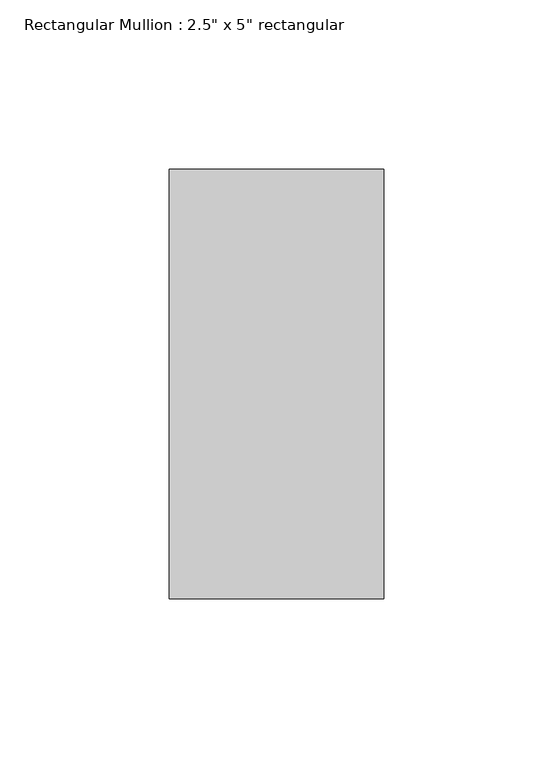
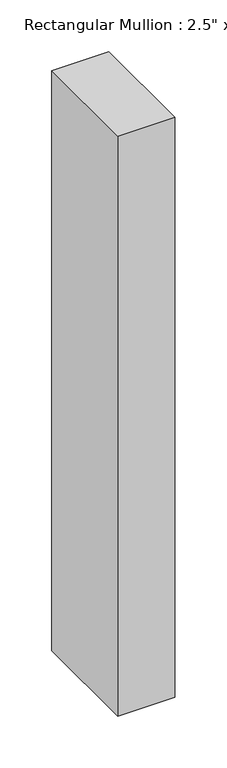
"""IFC4 building model written with IfcOpenShell, lengths in millimetres: member geometry."""

import ifcopenshell
import ifcopenshell.guid

model = None  # the IFC model being written
_history = None  # IfcOwnerHistory: only IFC2X3 demands one
_inside = {}  # id of a spatial element -> (the spatial element, [elements in it])
_under = {}  # id of a project, library or spatial element -> (it, [spatial elements below it])
_declared = {}  # id of a project -> (the project, [libraries it declares])
_typed = {}  # id of a type object -> (the type object, [elements of that type])
_made_of = {}  # id of a material, layer set ... -> (it, [elements and type objects made of it])


def new_model(schema):
    """Start an empty IFC model of exactly this schema.

    Asked for "IFC4X3", IfcOpenShell would pick the latest addendum, in which some entities
    have other attributes; the version numbers below select the first issue.
    IFC2X3 requires an IfcOwnerHistory on every rooted entity: one is made here for all.
    """
    global model, _history
    if schema == "IFC4X3":
        model = ifcopenshell.file(schema_version=(4, 3, 0, 0))
    else:
        model = ifcopenshell.file(schema=schema)
    _inside.clear()
    _under.clear()
    _declared.clear()
    _typed.clear()
    _made_of.clear()
    _history = None
    if model.schema == "IFC2X3":
        org = make("IfcOrganization", Name="unknown")
        user = make(
            "IfcPersonAndOrganization",
            ThePerson=make("IfcPerson", FamilyName="unknown"),
            TheOrganization=org,
        )
        app = make(
            "IfcApplication",
            ApplicationDeveloper=org,
            Version="unknown",
            ApplicationFullName="unknown",
            ApplicationIdentifier="unknown",
        )
        _history = make(
            "IfcOwnerHistory",
            OwningUser=user,
            OwningApplication=app,
            ChangeAction="ADDED",
            CreationDate=0,
        )
    return model


def make(cls, **values):
    """One entity of the class cls with the attributes given. An attribute that is None is left unset."""
    return model.create_entity(
        cls, **{name: value for name, value in values.items() if value is not None}
    )


def rooted(cls, **values):
    """An entity with a GlobalId (a new one), such as an element, a storey or a relation."""
    return make(cls, GlobalId=ifcopenshell.guid.new(), OwnerHistory=_history, **values)


def si_unit(unit_type, name, prefix=None):
    """IfcSIUnit, for example si_unit("LENGTHUNIT", "METRE", prefix="MILLI")."""
    return make("IfcSIUnit", UnitType=unit_type, Prefix=prefix, Name=name)


def assignment(units):
    """IfcUnitAssignment: the units of a project."""
    return None if units is None else make("IfcUnitAssignment", Units=units)


def point(xyz):
    """IfcCartesianPoint."""
    return None if xyz is None else make("IfcCartesianPoint", Coordinates=xyz)


def direction(xyz):
    """IfcDirection."""
    return None if xyz is None else make("IfcDirection", DirectionRatios=xyz)


def frame(location, z_axis=None, x_axis=None):
    """IfcAxis2Placement3D, a coordinate frame: its origin and axes. An axis left out is left unset."""
    return make(
        "IfcAxis2Placement3D",
        Location=point(location),
        Axis=direction(z_axis),
        RefDirection=direction(x_axis),
    )


def origin():
    """The frame at (0, 0, 0) with its axes left unset."""
    return frame((0.0, 0.0, 0.0))


def place(relative_to, where):
    """IfcLocalPlacement: puts the frame where relative to a parent placement (None: the world)."""
    return make(
        "IfcLocalPlacement", PlacementRelTo=relative_to, RelativePlacement=where
    )


def context(
    kind, dimensions, precision=None, world=None, true_north=None, identifier=None
):
    """IfcGeometricRepresentationContext, for example the 3D "Model" context."""
    return make(
        "IfcGeometricRepresentationContext",
        ContextIdentifier=identifier,
        ContextType=kind,
        CoordinateSpaceDimension=dimensions,
        Precision=precision,
        WorldCoordinateSystem=world,
        TrueNorth=true_north,
    )


def project(units=None, contexts=None):
    """IfcProject with its units and contexts."""
    return rooted(
        "IfcProject",
        Name="project",
        RepresentationContexts=contexts,
        UnitsInContext=assignment(units),
    )


def spatial(cls, under=None, at=None, **own):
    """A site, building, storey or space (cls), placed at a placement, below another one or the project."""
    s = rooted(cls, ObjectPlacement=at, **own)
    if under is not None:
        _under.setdefault(under.id(), (under, []))[1].append(s)
    return s


def polyline(points):
    """IfcPolyline through the points."""
    return make("IfcPolyline", Points=[point(p) for p in points])


def outline(outer, holes=None, kind="AREA"):
    """IfcArbitraryClosedProfileDef: a profile drawn as a closed curve; with holes, ...WithVoids."""
    if holes is None:
        return make("IfcArbitraryClosedProfileDef", ProfileType=kind, OuterCurve=outer)
    return make(
        "IfcArbitraryProfileDefWithVoids",
        ProfileType=kind,
        OuterCurve=outer,
        InnerCurves=holes,
    )


def extrude(swept, where, along, depth):
    """IfcExtrudedAreaSolid: the profile swept, set in the frame where, extruded along a direction by depth."""
    return make(
        "IfcExtrudedAreaSolid",
        SweptArea=swept,
        Position=where,
        ExtrudedDirection=direction(along),
        Depth=depth,
    )


def shape(context_of_items, identifier, shape_type, items):
    """IfcShapeRepresentation: the items that make up one representation, for example the "Body"."""
    return make(
        "IfcShapeRepresentation",
        ContextOfItems=context_of_items,
        RepresentationIdentifier=identifier,
        RepresentationType=shape_type,
        Items=items,
    )


def source(mapping_origin, context_of_items, identifier, shape_type, items):
    """IfcRepresentationMap: a shape defined once, which mapped items show again and again."""
    return make(
        "IfcRepresentationMap",
        MappingOrigin=mapping_origin,
        MappedRepresentation=shape(context_of_items, identifier, shape_type, items),
    )


def transform(
    local_origin,
    x_axis=None,
    y_axis=None,
    z_axis=None,
    scale=None,
    scale2=None,
    scale3=None,
    uniform=True,
):
    """IfcCartesianTransformationOperator3D, or its non-uniform kind. x_axis, y_axis, z_axis: its Axis1, 2, 3."""
    if uniform:
        return make(
            "IfcCartesianTransformationOperator3D",
            Axis1=direction(x_axis),
            Axis2=direction(y_axis),
            LocalOrigin=point(local_origin),
            Scale=scale,
            Axis3=direction(z_axis),
        )
    return make(
        "IfcCartesianTransformationOperator3DnonUniform",
        Axis1=direction(x_axis),
        Axis2=direction(y_axis),
        LocalOrigin=point(local_origin),
        Scale=scale,
        Axis3=direction(z_axis),
        Scale2=scale2,
        Scale3=scale3,
    )


def mapped(mapping_source, mapping_target):
    """IfcMappedItem: shows the shape of a source again, moved by a transform."""
    return make(
        "IfcMappedItem", MappingSource=mapping_source, MappingTarget=mapping_target
    )


def made_of(thing, what):
    """Note that an element or type object is made of a material, layer set ...; save() writes the relation."""
    if what is not None:
        _made_of.setdefault(what.id(), (what, []))[1].append(thing)
    return thing


def element(
    cls,
    number,
    at=None,
    inside=None,
    cuts=None,
    type_object=None,
    material=None,
    context=None,
    identifier="Body",
    shape_type=None,
    held_by="IfcProductDefinitionShape",
    body=None,
    shapes=None,
    **own,
):
    """One element of the class cls, such as IfcWall. Its Tag is "e" and its number.

    at: its placement. inside: the storey or other place that contains it. cuts: it is an
    opening in that element (IfcRelVoidsElement). A single representation is given by context,
    identifier, shape_type and body (its items); several are given by shapes. held_by: the class
    of the entity that holds the representations. save() writes the other relations.
    """
    e = rooted(cls, Tag="e%d" % number, ObjectPlacement=at, **own)
    if body is not None:
        shapes = [shape(context, identifier, shape_type, body)]
    if shapes is not None:
        e.Representation = make(held_by, Representations=shapes)
    if inside is not None:
        _inside.setdefault(inside.id(), (inside, []))[1].append(e)
    if cuts is not None:
        rooted(
            "IfcRelVoidsElement", RelatingBuildingElement=cuts, RelatedOpeningElement=e
        )
    if type_object is not None:
        _typed.setdefault(type_object.id(), (type_object, []))[1].append(e)
    return made_of(e, material)


def aggregate(whole, parts):
    """IfcRelAggregates: a whole, such as a stair, and the parts it consists of."""
    return rooted("IfcRelAggregates", RelatingObject=whole, RelatedObjects=parts)


def save(model, path):
    """Write the relations noted so far, then the file.

    IfcRelAggregates (storeys below a building ...), IfcRelContainedInSpatialStructure (elements
    in a storey), IfcRelDefinesByType, IfcRelAssociatesMaterial and IfcRelDeclares: one each for
    every whole, place, type object, material and project.
    """
    for whole, parts in _under.values():
        aggregate(whole, parts)
    for where, things in _inside.values():
        rooted(
            "IfcRelContainedInSpatialStructure",
            RelatedElements=things,
            RelatingStructure=where,
        )
    for kind, things in _typed.values():
        rooted("IfcRelDefinesByType", RelatedObjects=things, RelatingType=kind)
    for what, things in _made_of.values():
        rooted("IfcRelAssociatesMaterial", RelatedObjects=things, RelatingMaterial=what)
    for by, libraries in _declared.values():
        rooted("IfcRelDeclares", RelatingContext=by, RelatedDefinitions=libraries)
    model.write(path)


def member_fa4ce4ca(model_context):
    return source(origin(), model_context, "Body", "SweptSolid", [
        extrude(outline(polyline([(31.75, 50.8), (31.75, -76.2), (-31.75, -76.2), (-31.75, 50.8), (31.75, 50.8)])), frame((0.0, 0.0, -681.83125), z_axis=(0.0, 0.0, 1.0), x_axis=(1.0, 0.0, 0.0)), (0.0, 0.0, 1.0), 681.83125),
    ])


if __name__ == "__main__":
    model = new_model("IFC4")
    model_context = context("Model", 3, world=origin())
    ifc_project = project(units=[si_unit("LENGTHUNIT", "METRE", prefix="MILLI")], contexts=[model_context])
    site = spatial("IfcSite", under=ifc_project)
    building = spatial("IfcBuilding", under=site)
    placement = place(None, origin())
    member_shape = member_fa4ce4ca(model_context)
    element("IfcMember", 1, ObjectType="Rectangular Mullion : 2.5\" x 5\" rectangular", at=placement, inside=building, context=model_context, shape_type="MappedRepresentation", body=[
        mapped(member_shape, transform((0.0, 0.0, 0.0), x_axis=(1.0, 0.0, 0.0), y_axis=(0.0, 1.0, 0.0), z_axis=(0.0, 0.0, 1.0))),
    ])
    save(model, "model.ifc")
